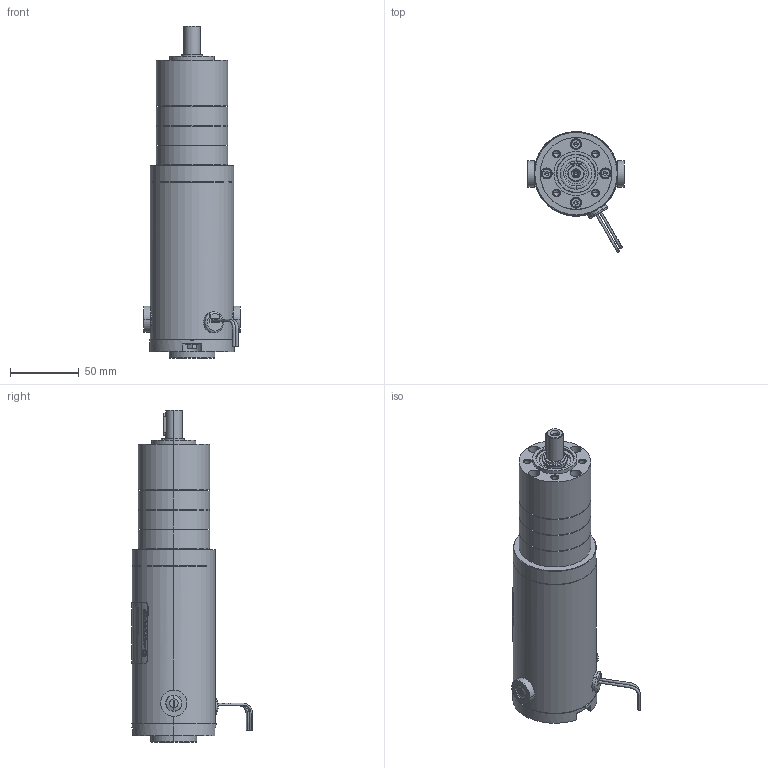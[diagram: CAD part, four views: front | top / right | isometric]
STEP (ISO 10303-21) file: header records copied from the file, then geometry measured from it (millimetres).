
FILE_DESCRIPTION (( 'STEP AP214' ), '1' );
FILE_NAME ('PM6015-PL5200i_3S.STEP', '2013-05-01T16:10:00', ( '' ), ( '' ), 'SwSTEP 2.0', 'SolidWorks 2013', '' );
FILE_SCHEMA (( 'AUTOMOTIVE_DESIGN' ));
Length unit declared in the file: inch
Products named in the file (1): PM6015-PL5200i_3S
Bounding box: 69.81 x 87.55 x 240.86 mm (x, y, z)
Surface area: 145117.3 mm2 (no closed solid volume)
Topology: 0 solids, 41 shells, 2076 faces, 5526 edges, 3569 vertices
Faces by surface type: plane 728, cylinder 701, bspline 389, cone 183, torus 61, sphere 14
Entity records: 115948 total; most frequent: CARTESIAN_POINT 38976, ORIENTED_EDGE 10900, DIRECTION 9468, EDGE_CURVE 5460, VERTEX_POINT 3555, AXIS2_PLACEMENT_3D 3482, VECTOR 2504, LINE 2504
